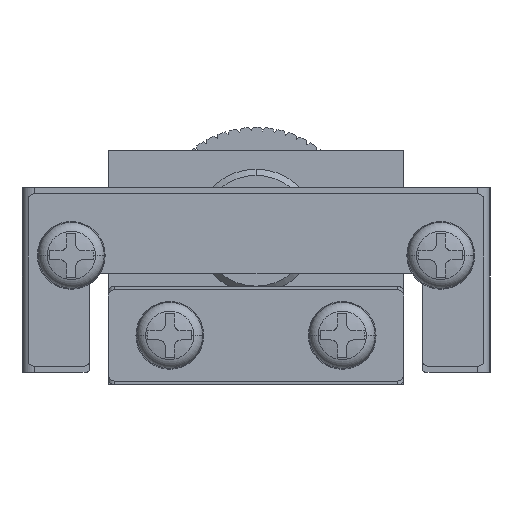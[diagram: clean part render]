
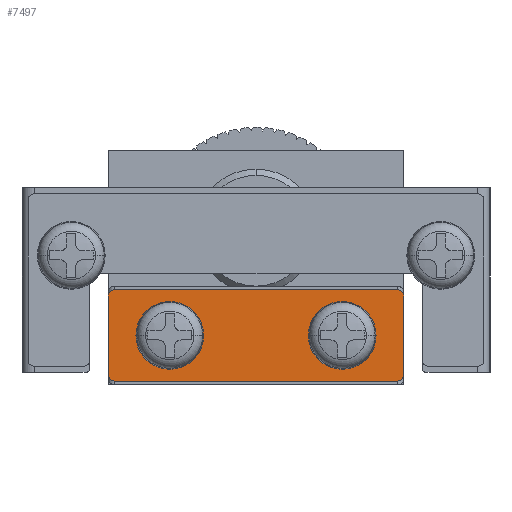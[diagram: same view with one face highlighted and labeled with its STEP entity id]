
A CAD part, left-side view. The second image highlights one B-rep face of the part: STEP entity #7497.
In plain terms, the highlighted planar face has unit normal (-1, 0, 0).
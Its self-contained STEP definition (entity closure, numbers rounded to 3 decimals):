
#193 = CARTESIAN_POINT ( 'NONE',  ( -30.198, 8.536, -3.2 ) ) ;
#195 = CARTESIAN_POINT ( 'NONE',  ( -30.198, -14.964, 3.7 ) ) ;
#200 = CARTESIAN_POINT ( 'NONE',  ( -30.198, 8.036, 3.7 ) ) ;
#242 = CARTESIAN_POINT ( 'NONE',  ( -30.198, 8.036, -3.7 ) ) ;
#255 = CARTESIAN_POINT ( 'NONE',  ( -30.198, 5.136, 0. ) ) ;
#270 = CARTESIAN_POINT ( 'NONE',  ( -30.198, -15.464, 3.2 ) ) ;
#289 = CARTESIAN_POINT ( 'NONE',  ( -30.198, -12.064, 0. ) ) ;
#291 = CARTESIAN_POINT ( 'NONE',  ( -30.198, -14.964, -3.7 ) ) ;
#292 = CARTESIAN_POINT ( 'NONE',  ( -30.198, 8.536, 3.2 ) ) ;
#293 = CARTESIAN_POINT ( 'NONE',  ( -30.198, -8.864, 0. ) ) ;
#298 = CARTESIAN_POINT ( 'NONE',  ( -30.198, -15.464, -3.2 ) ) ;
#299 = CARTESIAN_POINT ( 'NONE',  ( -30.198, 1.936, 0. ) ) ;
#1023 = FACE_BOUND ( 'NONE', #18575, .T. ) ;
#1044 = FACE_OUTER_BOUND ( 'NONE', #18576, .T. ) ;
#1086 = FACE_BOUND ( 'NONE', #18536, .T. ) ;
#2371 = ORIENTED_EDGE ( 'NONE', *, *, #3984, .F. ) ;
#2419 = ORIENTED_EDGE ( 'NONE', *, *, #4018, .F. ) ;
#2435 = ORIENTED_EDGE ( 'NONE', *, *, #3959, .F. ) ;
#2439 = ORIENTED_EDGE ( 'NONE', *, *, #3953, .F. ) ;
#2442 = ORIENTED_EDGE ( 'NONE', *, *, #4056, .F. ) ;
#2450 = ORIENTED_EDGE ( 'NONE', *, *, #3981, .F. ) ;
#2463 = ORIENTED_EDGE ( 'NONE', *, *, #3968, .F. ) ;
#2465 = ORIENTED_EDGE ( 'NONE', *, *, #4070, .F. ) ;
#2471 = ORIENTED_EDGE ( 'NONE', *, *, #3952, .F. ) ;
#2477 = ORIENTED_EDGE ( 'NONE', *, *, #4038, .F. ) ;
#2480 = ORIENTED_EDGE ( 'NONE', *, *, #3969, .F. ) ;
#2492 = ORIENTED_EDGE ( 'NONE', *, *, #3951, .F. ) ;
#3029 = AXIS2_PLACEMENT_3D ( 'NONE', #10815, #10806, #10811 ) ;
#3031 = AXIS2_PLACEMENT_3D ( 'NONE', #10647, #10731, #10736 ) ;
#3057 = AXIS2_PLACEMENT_3D ( 'NONE', #11012, #11006, #10949 ) ;
#3059 = AXIS2_PLACEMENT_3D ( 'NONE', #19048, #19049, #19052 ) ;
#3493 = AXIS2_PLACEMENT_3D ( 'NONE', #9033, #9039, #9040 ) ;
#3951 = EDGE_CURVE ( 'NONE', #8464, #8415, #13630, .T. ) ;
#3952 = EDGE_CURVE ( 'NONE', #8396, #8464, #13661, .T. ) ;
#3953 = EDGE_CURVE ( 'NONE', #8437, #8409, #13642, .T. ) ;
#3959 = EDGE_CURVE ( 'NONE', #8372, #8396, #13614, .T. ) ;
#3968 = EDGE_CURVE ( 'NONE', #8409, #8371, #13644, .T. ) ;
#3969 = EDGE_CURVE ( 'NONE', #8439, #8431, #13646, .T. ) ;
#3981 = EDGE_CURVE ( 'NONE', #8441, #8451, #13680, .T. ) ;
#3984 = EDGE_CURVE ( 'NONE', #8415, #8437, #13723, .T. ) ;
#4018 = EDGE_CURVE ( 'NONE', #8371, #8427, #13763, .T. ) ;
#4038 = EDGE_CURVE ( 'NONE', #8431, #8439, #13748, .T. ) ;
#4056 = EDGE_CURVE ( 'NONE', #8451, #8441, #13711, .T. ) ;
#4070 = EDGE_CURVE ( 'NONE', #8427, #8372, #16634, .T. ) ;
#4839 = AXIS2_PLACEMENT_3D ( 'NONE', #18966, #18974, #18975 ) ;
#4869 = AXIS2_PLACEMENT_3D ( 'NONE', #19002, #19016, #18990 ) ;
#4908 = AXIS2_PLACEMENT_3D ( 'NONE', #18978, #19006, #19010 ) ;
#4909 = AXIS2_PLACEMENT_3D ( 'NONE', #19041, #19029, #19054 ) ;
#7497 = ADVANCED_FACE ( 'NONE', ( #1086, #1023, #1044 ), #9038, .T. ) ;
#8371 = VERTEX_POINT ( 'NONE', #193 ) ;
#8372 = VERTEX_POINT ( 'NONE', #200 ) ;
#8396 = VERTEX_POINT ( 'NONE', #195 ) ;
#8409 = VERTEX_POINT ( 'NONE', #242 ) ;
#8415 = VERTEX_POINT ( 'NONE', #298 ) ;
#8427 = VERTEX_POINT ( 'NONE', #292 ) ;
#8431 = VERTEX_POINT ( 'NONE', #299 ) ;
#8437 = VERTEX_POINT ( 'NONE', #291 ) ;
#8439 = VERTEX_POINT ( 'NONE', #255 ) ;
#8441 = VERTEX_POINT ( 'NONE', #293 ) ;
#8451 = VERTEX_POINT ( 'NONE', #289 ) ;
#8464 = VERTEX_POINT ( 'NONE', #270 ) ;
#9033 = CARTESIAN_POINT ( 'NONE',  ( -30.198, -14.964, -3.2 ) ) ;
#9038 = PLANE ( 'NONE',  #3493 ) ;
#9039 = DIRECTION ( 'NONE',  ( -1., 0., 0. ) ) ;
#9040 = DIRECTION ( 'NONE',  ( 0., 1., 0. ) ) ;
#10647 = CARTESIAN_POINT ( 'NONE',  ( -30.198, 3.536, 0. ) ) ;
#10731 = DIRECTION ( 'NONE',  ( -1., 0., 0. ) ) ;
#10736 = DIRECTION ( 'NONE',  ( 0., 1., 0. ) ) ;
#10806 = DIRECTION ( 'NONE',  ( -1., 0., 0. ) ) ;
#10811 = DIRECTION ( 'NONE',  ( 0., 1., 0. ) ) ;
#10815 = CARTESIAN_POINT ( 'NONE',  ( -30.198, -10.464, 0. ) ) ;
#10949 = DIRECTION ( 'NONE',  ( 0., 1., 0. ) ) ;
#11006 = DIRECTION ( 'NONE',  ( 1., 0., 0. ) ) ;
#11012 = CARTESIAN_POINT ( 'NONE',  ( -30.198, 8.036, 3.2 ) ) ;
#13614 = LINE ( 'NONE', #19012, #13670 ) ;
#13627 = VECTOR ( 'NONE', #18968, 1000. ) ;
#13630 = LINE ( 'NONE', #18971, #13627 ) ;
#13642 = LINE ( 'NONE', #18960, #13662 ) ;
#13644 = CIRCLE ( 'NONE', #4869, 0.5 ) ;
#13646 = CIRCLE ( 'NONE', #4908, 1.6 ) ;
#13661 = CIRCLE ( 'NONE', #4839, 0.5 ) ;
#13662 = VECTOR ( 'NONE', #18961, 1000. ) ;
#13670 = VECTOR ( 'NONE', #19018, 1000. ) ;
#13680 = CIRCLE ( 'NONE', #4909, 1.6 ) ;
#13711 = CIRCLE ( 'NONE', #3029, 1.6 ) ;
#13723 = CIRCLE ( 'NONE', #3059, 0.5 ) ;
#13748 = CIRCLE ( 'NONE', #3031, 1.6 ) ;
#13753 = VECTOR ( 'NONE', #19112, 1000. ) ;
#13763 = LINE ( 'NONE', #19104, #13753 ) ;
#16634 = CIRCLE ( 'NONE', #3057, 0.5 ) ;
#18536 = EDGE_LOOP ( 'NONE', ( #2480, #2477 ) ) ;
#18575 = EDGE_LOOP ( 'NONE', ( #2450, #2442 ) ) ;
#18576 = EDGE_LOOP ( 'NONE', ( #2371, #2492, #2471, #2435, #2465, #2419, #2463, #2439 ) ) ;
#18960 = CARTESIAN_POINT ( 'NONE',  ( -30.198, 8.036, -3.7 ) ) ;
#18961 = DIRECTION ( 'NONE',  ( 0., 1., 0. ) ) ;
#18966 = CARTESIAN_POINT ( 'NONE',  ( -30.198, -14.964, 3.2 ) ) ;
#18968 = DIRECTION ( 'NONE',  ( 0., 0., -1. ) ) ;
#18971 = CARTESIAN_POINT ( 'NONE',  ( -30.198, -15.464, 3.2 ) ) ;
#18974 = DIRECTION ( 'NONE',  ( 1., 0., 0. ) ) ;
#18975 = DIRECTION ( 'NONE',  ( 0., 1., 0. ) ) ;
#18978 = CARTESIAN_POINT ( 'NONE',  ( -30.198, 3.536, 0. ) ) ;
#18990 = DIRECTION ( 'NONE',  ( 0., 1., 0. ) ) ;
#19002 = CARTESIAN_POINT ( 'NONE',  ( -30.198, 8.036, -3.2 ) ) ;
#19006 = DIRECTION ( 'NONE',  ( -1., 0., 0. ) ) ;
#19010 = DIRECTION ( 'NONE',  ( 0., 1., 0. ) ) ;
#19012 = CARTESIAN_POINT ( 'NONE',  ( -30.198, 8.036, 3.7 ) ) ;
#19016 = DIRECTION ( 'NONE',  ( 1., 0., 0. ) ) ;
#19018 = DIRECTION ( 'NONE',  ( 0., -1., 0. ) ) ;
#19029 = DIRECTION ( 'NONE',  ( -1., 0., 0. ) ) ;
#19041 = CARTESIAN_POINT ( 'NONE',  ( -30.198, -10.464, 0. ) ) ;
#19048 = CARTESIAN_POINT ( 'NONE',  ( -30.198, -14.964, -3.2 ) ) ;
#19049 = DIRECTION ( 'NONE',  ( 1., 0., 0. ) ) ;
#19052 = DIRECTION ( 'NONE',  ( 0., 1., 0. ) ) ;
#19054 = DIRECTION ( 'NONE',  ( 0., 1., 0. ) ) ;
#19104 = CARTESIAN_POINT ( 'NONE',  ( -30.198, 8.536, 3.2 ) ) ;
#19112 = DIRECTION ( 'NONE',  ( 0., 0., 1. ) ) ;
